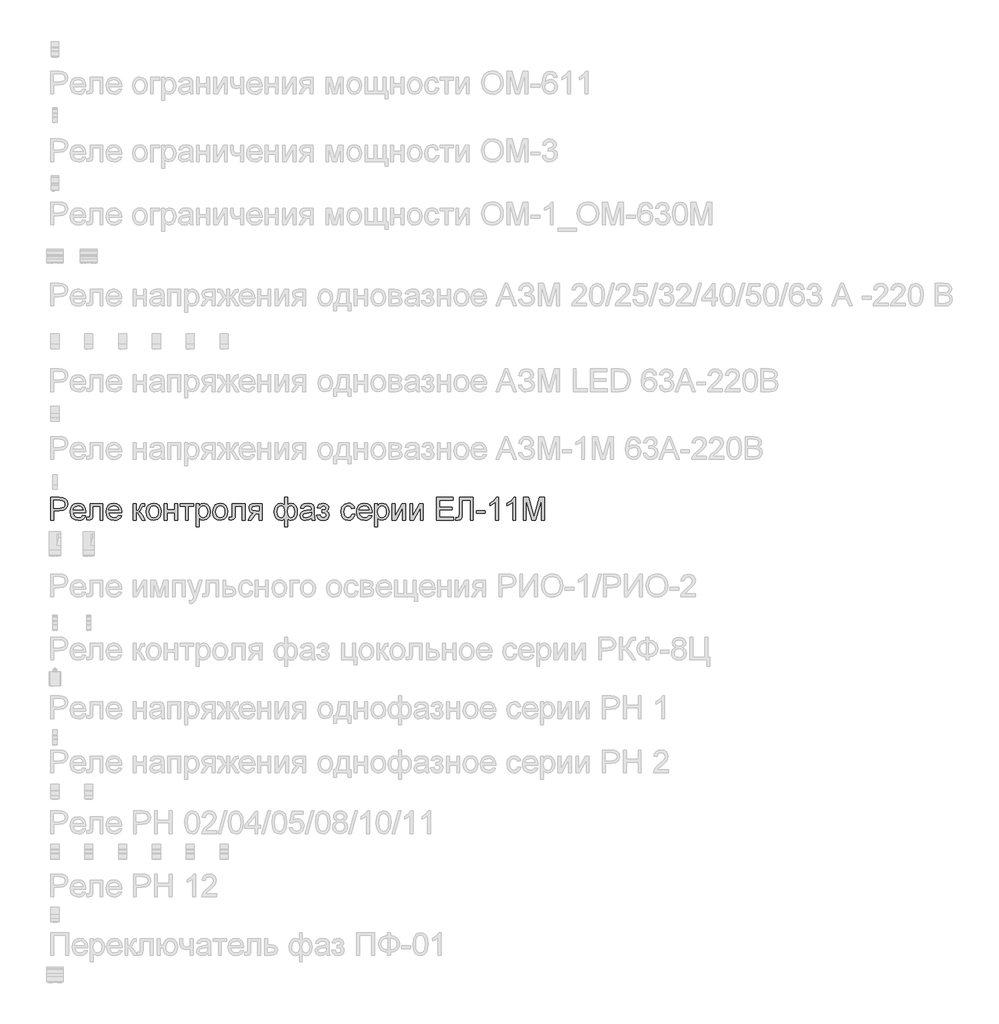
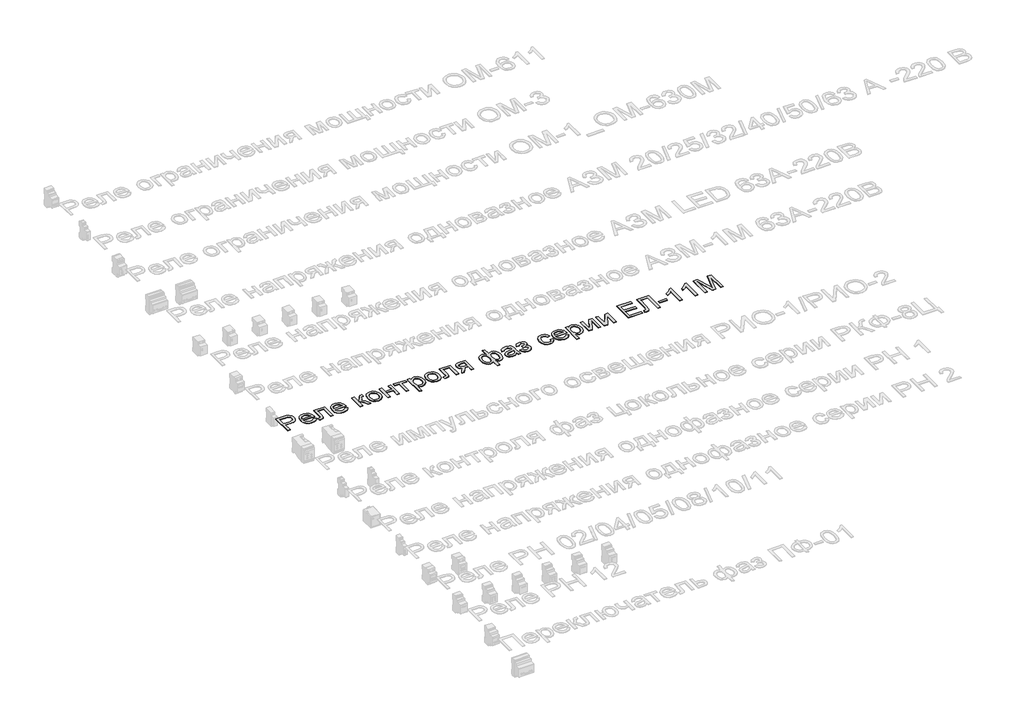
# One storey, part 14 of 34: 1 proxy.
"""IFC4 building model written with IfcOpenShell, lengths in millimetres."""

from ifc_helpers import new_model, si_unit, frame, origin, place, context, project, spatial, polyline, outline, extrude, element, save

model = new_model("IFC4")

# Units and contexts
model_context = context("Model", 3, world=origin())
ifc_project = project(units=[si_unit("LENGTHUNIT", "METRE", prefix="MILLI")], contexts=[model_context])

# Site, building, storey
site = spatial("IfcSite", under=ifc_project)
building = spatial("IfcBuilding", under=site)
storey = spatial("IfcBuildingStorey", under=building, Name="Этаж 01", Elevation=0.0)

# Proxy
placement = place(None, origin())
element("IfcBuildingElementProxy", 1, Name="Надпись на модели 1", ObjectType="Надпись на модели 1", at=placement, inside=storey, context=model_context, shape_type="SweptSolid", body=[
    extrude(outline(polyline([(-19039.0125911, 11326.235284), (-19039.0125911, 11426.6915941), (-19001.7829332, 11426.6915941), (-18986.7733478, 11425.735101), (-18974.5719283, 11421.0384742), (-18966.6624654, 11411.3263895), (-18963.6703585, 11397.6289165), (-18965.6906438, 11385.7892476), (-18971.7514996, 11375.9238788), (-18983.0853308, 11369.2652147), (-19000.9245418, 11367.04566), (-19026.4555523, 11367.04566), (-19026.4555523, 11326.235284), (-19039.0125911, 11326.235284)]), holes=[polyline([(-19026.4555523, 11379.6026988), (-19000.1887779, 11379.6026988), (-18981.6965762, 11384.2134864), (-18977.594692, 11389.7623732), (-18976.2273972, 11397.1874581), (-18979.4524961, 11407.5862559), (-18987.9260447, 11413.2761641), (-19000.4830834, 11414.1345554), (-19026.4555523, 11414.1345554), (-19026.4555523, 11379.6026988)])]), frame((0.0, 0.0, 40.0), z_axis=(0.0, 0.0, 1.0), x_axis=(1.0, 0.0, 0.0)), (0.0, 0.0, 1.0), 2.0),
    extrude(outline(polyline([(-18896.3234279, 11348.2101018), (-18884.0116438, 11346.640472), (-18888.4476875, 11337.3637143), (-18895.5263502, 11330.4291387), (-18905.0882164, 11326.1065253), (-18916.9738705, 11324.6656541), (-18931.7075445, 11327.1519233), (-18943.0444413, 11334.6107308), (-18950.2733225, 11346.5576985), (-18952.6829495, 11362.5084487), (-18950.248797, 11378.9956935), (-18942.9463394, 11391.3258717), (-18931.7627268, 11399.0146054), (-18917.6851091, 11401.5775166), (-18904.0458841, 11399.0207367), (-18893.14738, 11391.3503971), (-18886.0012722, 11379.0447444), (-18883.6192363, 11362.5820251), (-18883.6928127, 11359.1975108), (-18940.1259108, 11359.1975108), (-18937.9523413, 11349.7981258), (-18932.9031609, 11342.8880756), (-18925.6160317, 11338.6390386), (-18916.7286159, 11337.2226929), (-18904.4168318, 11339.8469178), (-18896.3234279, 11348.2101018)]), holes=[polyline([(-18940.1259108, 11371.7545495), (-18896.1762751, 11371.7545495), (-18901.2039957, 11383.1343659), (-18908.5248474, 11387.5489499), (-18917.73416, 11389.0204778), (-18933.1974665, 11384.323851), (-18938.0627059, 11378.8332123), (-18940.1259108, 11371.7545495)])]), frame((0.0, 0.0, 40.0), z_axis=(0.0, 0.0, 1.0), x_axis=(1.0, 0.0, 0.0)), (0.0, 0.0, 1.0), 2.0),
    extrude(outline(polyline([(-18864.7836782, 11400.0078868), (-18808.2770037, 11400.0078868), (-18808.2770037, 11326.3088604), (-18820.8340425, 11326.3088604), (-18820.8340425, 11387.450848), (-18852.2266394, 11387.450848), (-18852.2266394, 11352.2568038), (-18853.072768, 11336.0209451), (-18857.7203439, 11329.1660772), (-18868.7077528, 11326.235284), (-18878.9103468, 11326.8729461), (-18878.9103468, 11338.7923228), (-18873.294015, 11338.7923228), (-18867.6163695, 11339.564875), (-18865.3477639, 11342.0174216), (-18864.7836782, 11352.9680423), (-18864.7836782, 11400.0078868)])), frame((0.0, 0.0, 40.0), z_axis=(0.0, 0.0, 1.0), x_axis=(1.0, 0.0, 0.0)), (0.0, 0.0, 1.0), 2.0),
    extrude(outline(polyline([(-18737.7908134, 11348.2101018), (-18725.4790293, 11346.640472), (-18729.915073, 11337.3637143), (-18736.9937358, 11330.4291387), (-18746.555602, 11326.1065253), (-18758.4412561, 11324.6656541), (-18773.17493, 11327.1519233), (-18784.5118268, 11334.6107308), (-18791.740708, 11346.5576985), (-18794.1503351, 11362.5084487), (-18791.7161826, 11378.9956935), (-18784.4137249, 11391.3258717), (-18773.2301123, 11399.0146054), (-18759.1524946, 11401.5775166), (-18745.5132696, 11399.0207367), (-18734.6147655, 11391.3503971), (-18727.4686578, 11379.0447444), (-18725.0866219, 11362.5820251), (-18725.1601983, 11359.1975108), (-18781.5932963, 11359.1975108), (-18779.4197269, 11349.7981258), (-18774.3705465, 11342.8880756), (-18767.0834173, 11338.6390386), (-18758.1960014, 11337.2226929), (-18745.8842173, 11339.8469178), (-18737.7908134, 11348.2101018)]), holes=[polyline([(-18781.5932963, 11371.7545495), (-18737.6436606, 11371.7545495), (-18742.6713812, 11383.1343659), (-18749.9922329, 11387.5489499), (-18759.2015455, 11389.0204778), (-18774.6648521, 11384.323851), (-18779.5300915, 11378.8332123), (-18781.5932963, 11371.7545495)])]), frame((0.0, 0.0, 40.0), z_axis=(0.0, 0.0, 1.0), x_axis=(1.0, 0.0, 0.0)), (0.0, 0.0, 1.0), 2.0),
    extrude(outline(polyline([(-18673.2888369, 11400.0078868), (-18660.7317982, 11400.0078868), (-18660.7317982, 11368.6152898), (-18652.3195632, 11370.8716327), (-18645.4279072, 11384.0172827), (-18639.7012108, 11395.3603109), (-18634.6489647, 11399.0513936), (-18625.4641776, 11400.0078868), (-18623.0606819, 11400.0078868), (-18623.0606819, 11387.3772716), (-18626.4451962, 11387.450848), (-18632.5765628, 11386.1264728), (-18636.8930449, 11377.8613906), (-18641.9575537, 11368.9218582), (-18649.0576762, 11364.5440624), (-18641.1359506, 11359.6573633), (-18633.3613777, 11349.3627988), (-18619.9214222, 11326.235284), (-18634.1952436, 11326.235284), (-18647.365419, 11348.8722894), (-18653.9872949, 11358.449484), (-18660.7317982, 11360.7671406), (-18660.7317982, 11326.235284), (-18673.2888369, 11326.235284), (-18673.2888369, 11400.0078868)])), frame((0.0, 0.0, 40.0), z_axis=(0.0, 0.0, 1.0), x_axis=(1.0, 0.0, 0.0)), (0.0, 0.0, 1.0), 2.0),
    extrude(outline(polyline([(-18615.2125326, 11363.1215854), (-18612.4963372, 11380.9086798), (-18604.347751, 11393.4105363), (-18594.2800471, 11399.5357715), (-18582.2257804, 11401.5775166), (-18569.0341452, 11399.0912475), (-18558.4973917, 11391.63244), (-18551.5904073, 11379.7897054), (-18549.2880791, 11364.151655), (-18553.3593065, 11341.8089551), (-18565.2173695, 11329.1660772), (-18582.2257804, 11324.6656541), (-18595.5768311, 11327.1427262), (-18606.1013219, 11334.5739426), (-18612.9347299, 11346.6649975), (-18615.2125326, 11363.1215854)]), holes=[polyline([(-18602.6554939, 11363.1461108), (-18601.20236, 11351.7816229), (-18596.8429583, 11343.6851533), (-18590.2823961, 11338.838308), (-18582.2257804, 11337.2226929), (-18574.2059529, 11338.8475051), (-18567.6576534, 11343.7219415), (-18563.2982517, 11351.92571), (-18561.8451179, 11363.5385183), (-18563.3074488, 11374.5719125), (-18567.6944416, 11382.5580175), (-18574.2519382, 11387.4048627), (-18582.2257804, 11389.0204778), (-18590.2823961, 11387.4109941), (-18596.8429583, 11382.5825429), (-18601.20236, 11374.5044674), (-18602.6554939, 11363.1461108)])]), frame((0.0, 0.0, 40.0), z_axis=(0.0, 0.0, 1.0), x_axis=(1.0, 0.0, 0.0)), (0.0, 0.0, 1.0), 2.0),
    extrude(outline(polyline([(-18535.1614105, 11400.0078868), (-18522.6043717, 11400.0078868), (-18522.6043717, 11371.7545495), (-18489.6421449, 11371.7545495), (-18489.6421449, 11400.0078868), (-18477.0851062, 11400.0078868), (-18477.0851062, 11326.235284), (-18489.6421449, 11326.235284), (-18489.6421449, 11359.1975108), (-18522.6043717, 11359.1975108), (-18522.6043717, 11326.235284), (-18535.1614105, 11326.235284), (-18535.1614105, 11400.0078868)])), frame((0.0, 0.0, 40.0), z_axis=(0.0, 0.0, 1.0), x_axis=(1.0, 0.0, 0.0)), (0.0, 0.0, 1.0), 2.0),
    extrude(outline(polyline([(-18464.5280674, 11400.0078868), (-18404.8821333, 11400.0078868), (-18404.8821333, 11387.450848), (-18428.4265809, 11387.450848), (-18428.4265809, 11326.235284), (-18440.9836197, 11326.235284), (-18440.9836197, 11387.450848), (-18464.5280674, 11387.450848), (-18464.5280674, 11400.0078868)])), frame((0.0, 0.0, 40.0), z_axis=(0.0, 0.0, 1.0), x_axis=(1.0, 0.0, 0.0)), (0.0, 0.0, 1.0), 2.0),
    extrude(outline(polyline([(-18393.8947243, 11297.9819468), (-18393.8947243, 11400.0078868), (-18381.3376856, 11400.0078868), (-18381.3376856, 11387.6961027), (-18372.6556705, 11398.1071631), (-18360.9324976, 11401.5775166), (-18345.0154699, 11396.7214743), (-18334.6166722, 11383.036264), (-18331.1095305, 11363.6856711), (-18335.0703933, 11343.3417968), (-18346.572837, 11329.4849083), (-18362.4530765, 11324.6656541), (-18373.3791717, 11327.890753), (-18381.3376856, 11336.0454705), (-18381.3376856, 11297.9819468), (-18393.8947243, 11297.9819468)]), holes=[polyline([(-18381.3376856, 11362.5329742), (-18379.9795879, 11351.2757851), (-18375.9052948, 11343.4031104), (-18369.8934898, 11338.7677973), (-18362.7228566, 11337.2226929), (-18355.4357274, 11338.8229796), (-18349.2706383, 11343.6238396), (-18345.0675865, 11351.7846886), (-18343.6665693, 11363.4649419), (-18345.033864, 11374.6608173), (-18349.1357483, 11382.6438566), (-18355.1383561, 11387.4263225), (-18362.2078218, 11389.0204778), (-18369.3048786, 11387.325155), (-18375.5374128, 11382.2391864), (-18379.8876174, 11373.9219876), (-18381.3376856, 11362.5329742)])]), frame((0.0, 0.0, 40.0), z_axis=(0.0, 0.0, 1.0), x_axis=(1.0, 0.0, 0.0)), (0.0, 0.0, 1.0), 2.0),
    extrude(outline(polyline([(-18320.1221216, 11363.1215854), (-18317.4059262, 11380.9086798), (-18309.25734, 11393.4105363), (-18299.189636, 11399.5357715), (-18287.1353693, 11401.5775166), (-18273.9437341, 11399.0912475), (-18263.4069806, 11391.63244), (-18256.4999962, 11379.7897054), (-18254.197668, 11364.151655), (-18258.2688954, 11341.8089551), (-18270.1269584, 11329.1660772), (-18287.1353693, 11324.6656541), (-18300.4864201, 11327.1427262), (-18311.0109108, 11334.5739426), (-18317.8443189, 11346.6649975), (-18320.1221216, 11363.1215854)]), holes=[polyline([(-18307.5650828, 11363.1461108), (-18306.1119489, 11351.7816229), (-18301.7525473, 11343.6851533), (-18295.191985, 11338.838308), (-18287.1353693, 11337.2226929), (-18279.1155418, 11338.8475051), (-18272.5672423, 11343.7219415), (-18268.2078407, 11351.92571), (-18266.7547068, 11363.5385183), (-18268.2170377, 11374.5719125), (-18272.6040305, 11382.5580175), (-18279.1615271, 11387.4048627), (-18287.1353693, 11389.0204778), (-18295.191985, 11387.4109941), (-18301.7525473, 11382.5825429), (-18306.1119489, 11374.5044674), (-18307.5650828, 11363.1461108)])]), frame((0.0, 0.0, 40.0), z_axis=(0.0, 0.0, 1.0), x_axis=(1.0, 0.0, 0.0)), (0.0, 0.0, 1.0), 2.0),
    extrude(outline(polyline([(-18233.79248, 11400.0078868), (-18177.2858056, 11400.0078868), (-18177.2858056, 11326.3088604), (-18189.8428443, 11326.3088604), (-18189.8428443, 11387.450848), (-18221.2354413, 11387.450848), (-18221.2354413, 11352.2568038), (-18222.0815699, 11336.0209451), (-18226.7291457, 11329.1660772), (-18237.7165546, 11326.235284), (-18247.9191486, 11326.8729461), (-18247.9191486, 11338.7923228), (-18242.3028169, 11338.7923228), (-18236.6251714, 11339.564875), (-18234.3565658, 11342.0174216), (-18233.79248, 11352.9680423), (-18233.79248, 11400.0078868)])), frame((0.0, 0.0, 40.0), z_axis=(0.0, 0.0, 1.0), x_axis=(1.0, 0.0, 0.0)), (0.0, 0.0, 1.0), 2.0),
    extrude(outline(polyline([(-18101.943573, 11400.0078868), (-18101.943573, 11326.235284), (-18114.5006117, 11326.235284), (-18114.5006117, 11354.4886212), (-18121.3432168, 11354.4886212), (-18130.6628941, 11352.8944659), (-18139.4184855, 11342.1768371), (-18149.4248758, 11326.235284), (-18163.9439519, 11326.235284), (-18151.3378622, 11346.3952173), (-18140.6447589, 11356.843066), (-18149.2286721, 11359.4734223), (-18155.2619368, 11364.470486), (-18160.0198773, 11378.6952565), (-18158.3950651, 11387.2914325), (-18153.5206287, 11394.0972494), (-18145.5682462, 11398.5302274), (-18134.709596, 11400.0078868), (-18101.943573, 11400.0078868)]), holes=[polyline([(-18114.5006117, 11387.450848), (-18131.0553015, 11387.450848), (-18144.4584689, 11384.5445802), (-18147.4628385, 11377.7387633), (-18143.0359918, 11369.6330967), (-18127.3519561, 11367.04566), (-18114.5006117, 11367.04566), (-18114.5006117, 11387.450848)])]), frame((0.0, 0.0, 40.0), z_axis=(0.0, 0.0, 1.0), x_axis=(1.0, 0.0, 0.0)), (0.0, 0.0, 1.0), 2.0),
    extrude(outline(polyline([(-18001.4872628, 11426.6915941), (-17988.930224, 11426.6915941), (-17988.930224, 11392.920027), (-17980.9471847, 11399.4315383), (-17971.5907193, 11401.5775166), (-17960.6002447, 11398.8490585), (-17952.1542873, 11390.6636841), (-17946.7740131, 11378.3396372), (-17944.9805884, 11363.1951618), (-17946.9119688, 11347.5877681), (-17952.7061103, 11335.2974438), (-17961.3697312, 11327.3236016), (-17971.9095504, 11324.6656541), (-17979.5860214, 11325.8919275), (-17988.930224, 11332.5873798), (-17988.930224, 11297.9819468), (-18001.4872628, 11297.9819468), (-18001.4872628, 11332.5873798), (-18009.5070903, 11326.6522169), (-18018.9984458, 11324.6656541), (-18029.5198708, 11327.2040399), (-18038.6188189, 11334.8191972), (-18044.909601, 11347.1616382), (-18047.0065283, 11363.8818748), (-18045.1088704, 11378.603286), (-18039.4158965, 11390.7372605), (-18030.5162179, 11398.8674526), (-18018.9984458, 11401.5775166), (-18009.2740984, 11399.4315383), (-18001.4872628, 11392.920027), (-18001.4872628, 11426.6915941)]), holes=[polyline([(-17989.0038004, 11362.9008562), (-17984.8222084, 11342.45888), (-17974.3375716, 11337.2226929), (-17967.8843082, 11338.8321766), (-17962.4549831, 11343.6606278), (-17958.7669661, 11351.8797247), (-17957.5376271, 11363.6611456), (-17962.0748384, 11382.7419585), (-17967.2558432, 11387.450848), (-17973.7244349, 11389.0204778), (-17980.3861647, 11387.3864686), (-17985.165565, 11382.4844411), (-17989.0038004, 11362.9008562)]), polyline([(-18034.4494896, 11364.151655), (-18033.1925594, 11351.8337395), (-18029.421769, 11343.5257378), (-18023.7870431, 11338.7984541), (-18016.9383066, 11337.2226929), (-18010.1232927, 11338.7892571), (-18005.2764474, 11343.4889496), (-18001.4136864, 11362.2877195), (-18005.4726511, 11382.3372883), (-18010.564751, 11387.3496804), (-18017.7231215, 11389.0204778), (-18024.4430993, 11387.3895343), (-18029.789651, 11382.4967038), (-18034.4494896, 11364.151655)])]), frame((0.0, 0.0, 40.0), z_axis=(0.0, 0.0, 1.0), x_axis=(1.0, 0.0, 0.0)), (0.0, 0.0, 1.0), 2.0),
    extrude(outline(polyline([(-17882.1953945, 11335.6530631), (-17894.3722886, 11327.1427262), (-17907.8245068, 11324.6656541), (-17918.3183408, 11326.1555762), (-17926.0591911, 11330.6253425), (-17930.83246, 11337.4127653), (-17932.4235496, 11345.8556571), (-17930.0200539, 11355.7884709), (-17923.7047463, 11362.998958), (-17914.9123666, 11367.1192364), (-17904.047585, 11369.0076973), (-17882.2689709, 11373.3241794), (-17882.1953945, 11376.1200825), (-17885.6534853, 11385.3907088), (-17899.5348992, 11389.0204778), (-17912.2390908, 11386.6047194), (-17918.296881, 11378.0330689), (-17930.8539197, 11379.6026988), (-17925.4215289, 11391.8654319), (-17914.483171, 11399.0513936), (-17897.9162184, 11401.5775166), (-17882.6981666, 11399.3456992), (-17874.1019906, 11393.7416301), (-17870.2514924, 11385.2190306), (-17869.6383557, 11374.2316216), (-17869.6383557, 11358.6088996), (-17869.0006936, 11336.7934973), (-17866.499096, 11326.235284), (-17879.0561348, 11326.235284), (-17882.1953945, 11335.6530631)]), holes=[polyline([(-17882.1953945, 11360.7671406), (-17902.4534297, 11356.9166424), (-17913.2568976, 11354.8810287), (-17918.1497282, 11351.5700907), (-17919.8665108, 11346.7385739), (-17916.1263772, 11339.9450197), (-17905.151231, 11337.2226929), (-17892.4470394, 11340.2270625), (-17884.2555337, 11347.4988633), (-17882.2689709, 11357.210948), (-17882.1953945, 11360.7671406)])]), frame((0.0, 0.0, 40.0), z_axis=(0.0, 0.0, 1.0), x_axis=(1.0, 0.0, 0.0)), (0.0, 0.0, 1.0), 2.0),
    extrude(outline(polyline([(-17835.1064991, 11359.1975108), (-17835.1064991, 11371.7545495), (-17825.1982107, 11372.2450589), (-17820.1950156, 11374.857021), (-17817.8405708, 11380.3139373), (-17820.9920932, 11386.6537703), (-17829.1222853, 11389.0204778), (-17837.5222576, 11386.6660331), (-17842.9546484, 11379.6026988), (-17857.081317, 11381.1723286), (-17847.6390124, 11396.4762196), (-17830.3976096, 11401.5775166), (-17819.90071, 11400.0232152), (-17811.9544589, 11395.3603109), (-17806.9512638, 11388.5391656), (-17805.2835321, 11380.510141), (-17807.6563709, 11372.7110427), (-17814.7748875, 11366.677778), (-17806.4730172, 11358.8541542), (-17803.7139022, 11347.5969652), (-17805.4644074, 11338.3539301), (-17810.7159228, 11331.0300127), (-17819.1128294, 11326.2567438), (-17830.2995077, 11324.6656541), (-17841.2409314, 11326.1371821), (-17849.6133125, 11330.5517661), (-17855.4166509, 11337.909406), (-17858.6509468, 11348.2101018), (-17844.5242782, 11349.7797317), (-17838.8588955, 11340.5091054), (-17829.0977599, 11337.2226929), (-17819.9252355, 11340.3742153), (-17816.270941, 11348.430831), (-17818.5395466, 11355.0281815), (-17823.3710635, 11358.5598486), (-17832.6539525, 11359.2710872), (-17835.1064991, 11359.1975108)])), frame((0.0, 0.0, 40.0), z_axis=(0.0, 0.0, 1.0), x_axis=(1.0, 0.0, 0.0)), (0.0, 0.0, 1.0), 2.0),
    extrude(outline(polyline([(-17701.6879622, 11352.9189914), (-17689.1309234, 11351.3493615), (-17692.6319338, 11340.1810773), (-17699.2108901, 11331.7412512), (-17708.2485245, 11326.4345534), (-17719.1255688, 11324.6656541), (-17732.4827509, 11327.1335292), (-17742.9275339, 11334.5371544), (-17749.6689714, 11346.5515672), (-17751.9161173, 11362.8518052), (-17748.0778818, 11383.7107144), (-17736.3792344, 11397.1138817), (-17719.297247, 11401.5775166), (-17708.6869172, 11400.044675), (-17700.2041715, 11395.44615), (-17694.1187902, 11388.0271964), (-17690.7005533, 11378.0330689), (-17703.2575921, 11376.4634391), (-17709.0823903, 11385.8689554), (-17719.1991452, 11389.0204778), (-17727.3140089, 11387.4692421), (-17733.7550095, 11382.8155349), (-17737.9580613, 11374.8079701), (-17739.3590785, 11363.1951618), (-17737.9887181, 11351.4260036), (-17733.8776368, 11343.3908477), (-17727.5531322, 11338.7647316), (-17719.5425017, 11337.2226929), (-17707.7089642, 11341.0731911), (-17701.6879622, 11352.9189914)])), frame((0.0, 0.0, 40.0), z_axis=(0.0, 0.0, 1.0), x_axis=(1.0, 0.0, 0.0)), (0.0, 0.0, 1.0), 2.0),
    extrude(outline(polyline([(-17626.4928824, 11348.2101018), (-17614.1810983, 11346.640472), (-17618.617142, 11337.3637143), (-17625.6958047, 11330.4291387), (-17635.2576709, 11326.1065253), (-17647.1433251, 11324.6656541), (-17661.876999, 11327.1519233), (-17673.2138958, 11334.6107308), (-17680.442777, 11346.5576985), (-17682.8524041, 11362.5084487), (-17680.4182515, 11378.9956935), (-17673.1157939, 11391.3258717), (-17661.9321813, 11399.0146054), (-17647.8545636, 11401.5775166), (-17634.2153386, 11399.0207367), (-17623.3168345, 11391.3503971), (-17616.1707267, 11379.0447444), (-17613.7886908, 11362.5820251), (-17613.8622672, 11359.1975108), (-17670.2953653, 11359.1975108), (-17668.1217958, 11349.7981258), (-17663.0726155, 11342.8880756), (-17655.7854863, 11338.6390386), (-17646.8980704, 11337.2226929), (-17634.5862863, 11339.8469178), (-17626.4928824, 11348.2101018)]), holes=[polyline([(-17670.2953653, 11371.7545495), (-17626.3457296, 11371.7545495), (-17631.3734502, 11383.1343659), (-17638.6943019, 11387.5489499), (-17647.9036145, 11389.0204778), (-17663.366921, 11384.323851), (-17668.2321604, 11378.8332123), (-17670.2953653, 11371.7545495)])]), frame((0.0, 0.0, 40.0), z_axis=(0.0, 0.0, 1.0), x_axis=(1.0, 0.0, 0.0)), (0.0, 0.0, 1.0), 2.0),
    extrude(outline(polyline([(-17601.2316521, 11297.9819468), (-17601.2316521, 11400.0078868), (-17588.6746133, 11400.0078868), (-17588.6746133, 11387.6961027), (-17579.9925982, 11398.1071631), (-17568.2694253, 11401.5775166), (-17552.3523976, 11396.7214743), (-17541.9535999, 11383.036264), (-17538.4464582, 11363.6856711), (-17542.407321, 11343.3417968), (-17553.9097647, 11329.4849083), (-17569.7900042, 11324.6656541), (-17580.7160995, 11327.890753), (-17588.6746133, 11336.0454705), (-17588.6746133, 11297.9819468), (-17601.2316521, 11297.9819468)]), holes=[polyline([(-17588.6746133, 11362.5329742), (-17587.3165156, 11351.2757851), (-17583.2422225, 11343.4031104), (-17577.2304176, 11338.7677973), (-17570.0597843, 11337.2226929), (-17562.7726551, 11338.8229796), (-17556.607566, 11343.6238396), (-17552.4045143, 11351.7846886), (-17551.003497, 11363.4649419), (-17552.3707917, 11374.6608173), (-17556.472676, 11382.6438566), (-17562.4752839, 11387.4263225), (-17569.5447495, 11389.0204778), (-17576.6418064, 11387.325155), (-17582.8743405, 11382.2391864), (-17587.2245451, 11373.9219876), (-17588.6746133, 11362.5329742)])]), frame((0.0, 0.0, 40.0), z_axis=(0.0, 0.0, 1.0), x_axis=(1.0, 0.0, 0.0)), (0.0, 0.0, 1.0), 2.0),
    extrude(outline(polyline([(-17524.3197896, 11400.0078868), (-17511.7627508, 11400.0078868), (-17511.7627508, 11343.746467), (-17480.9097142, 11400.0078868), (-17464.6738555, 11400.0078868), (-17464.6738555, 11326.235284), (-17477.2308942, 11326.235284), (-17477.2308942, 11382.1533473), (-17507.8877272, 11326.235284), (-17524.3197896, 11326.235284), (-17524.3197896, 11400.0078868)])), frame((0.0, 0.0, 40.0), z_axis=(0.0, 0.0, 1.0), x_axis=(1.0, 0.0, 0.0)), (0.0, 0.0, 1.0), 2.0),
    extrude(outline(polyline([(-17445.8382973, 11400.0078868), (-17433.2812585, 11400.0078868), (-17433.2812585, 11343.746467), (-17402.4282219, 11400.0078868), (-17386.1923631, 11400.0078868), (-17386.1923631, 11326.235284), (-17398.7494019, 11326.235284), (-17398.7494019, 11382.1533473), (-17429.4062348, 11326.235284), (-17445.8382973, 11326.235284), (-17445.8382973, 11400.0078868)])), frame((0.0, 0.0, 40.0), z_axis=(0.0, 0.0, 1.0), x_axis=(1.0, 0.0, 0.0)), (0.0, 0.0, 1.0), 2.0),
    extrude(outline(polyline([(-17326.546429, 11326.235284), (-17326.546429, 11426.6915941), (-17254.3434561, 11426.6915941), (-17254.3434561, 11414.1345554), (-17313.9893902, 11414.1345554), (-17313.9893902, 11384.3115883), (-17257.4827158, 11384.3115883), (-17257.4827158, 11371.7545495), (-17313.9893902, 11371.7545495), (-17313.9893902, 11338.7923228), (-17252.7738262, 11338.7923228), (-17252.7738262, 11326.235284), (-17326.546429, 11326.235284)])), frame((0.0, 0.0, 40.0), z_axis=(0.0, 0.0, 1.0), x_axis=(1.0, 0.0, 0.0)), (0.0, 0.0, 1.0), 2.0),
    extrude(outline(polyline([(-17226.0901188, 11426.6915941), (-17164.8745548, 11426.6915941), (-17164.8745548, 11326.235284), (-17177.4315936, 11326.235284), (-17177.4315936, 11414.1345554), (-17213.5330801, 11414.1345554), (-17213.5330801, 11362.8763307), (-17214.9923453, 11340.0063333), (-17221.1114492, 11328.7000934), (-17232.932724, 11324.6656541), (-17243.3560472, 11326.235284), (-17241.7864173, 11338.7923228), (-17235.7776781, 11337.2226929), (-17228.5058773, 11340.5949445), (-17226.0901188, 11356.475184), (-17226.0901188, 11426.6915941)])), frame((0.0, 0.0, 40.0), z_axis=(0.0, 0.0, 1.0), x_axis=(1.0, 0.0, 0.0)), (0.0, 0.0, 1.0), 2.0),
    extrude(outline(polyline([(-17150.7478862, 11356.0582511), (-17150.7478862, 11368.6152898), (-17111.5071401, 11368.6152898), (-17111.5071401, 11356.0582511), (-17150.7478862, 11356.0582511)])), frame((0.0, 0.0, 40.0), z_axis=(0.0, 0.0, 1.0), x_axis=(1.0, 0.0, 0.0)), (0.0, 0.0, 1.0), 2.0),
    extrude(outline(polyline([(-17053.4308358, 11326.235284), (-17065.9878745, 11326.235284), (-17065.9878745, 11404.5205726), (-17077.8827257, 11396.0470239), (-17091.1019521, 11389.7071909), (-17091.1019521, 11401.5775166), (-17072.6955896, 11413.325215), (-17061.5242397, 11426.6915941), (-17053.4308358, 11426.6915941), (-17053.4308358, 11326.235284)])), frame((0.0, 0.0, 40.0), z_axis=(0.0, 0.0, 1.0), x_axis=(1.0, 0.0, 0.0)), (0.0, 0.0, 1.0), 2.0),
    extrude(outline(polyline([(-16976.5189733, 11326.235284), (-16989.0760121, 11326.235284), (-16989.0760121, 11404.5205726), (-17000.9708633, 11396.0470239), (-17014.1900896, 11389.7071909), (-17014.1900896, 11401.5775166), (-16995.7837271, 11413.325215), (-16984.6123772, 11426.6915941), (-16976.5189733, 11426.6915941), (-16976.5189733, 11326.235284)])), frame((0.0, 0.0, 40.0), z_axis=(0.0, 0.0, 1.0), x_axis=(1.0, 0.0, 0.0)), (0.0, 0.0, 1.0), 2.0),
    extrude(outline(polyline([(-16941.9871167, 11326.235284), (-16941.9871167, 11426.6915941), (-16920.3801809, 11426.6915941), (-16899.8278401, 11355.8865728), (-16895.6830362, 11341.0977166), (-16891.1948759, 11357.1128461), (-16870.9858916, 11426.6915941), (-16849.3789558, 11426.6915941), (-16849.3789558, 11326.235284), (-16861.9359946, 11326.235284), (-16861.9359946, 11414.1345554), (-16887.1726994, 11326.235284), (-16904.1933731, 11326.235284), (-16929.4300779, 11414.1345554), (-16929.4300779, 11326.235284), (-16941.9871167, 11326.235284)])), frame((0.0, 0.0, 40.0), z_axis=(0.0, 0.0, 1.0), x_axis=(1.0, 0.0, 0.0)), (0.0, 0.0, 1.0), 2.0),
])

save(model, "model.ifc")
